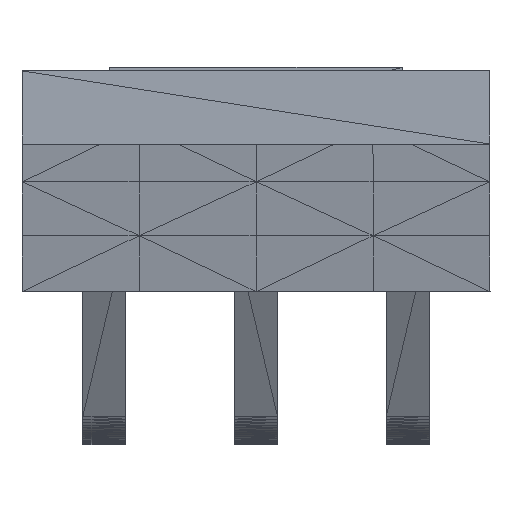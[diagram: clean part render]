
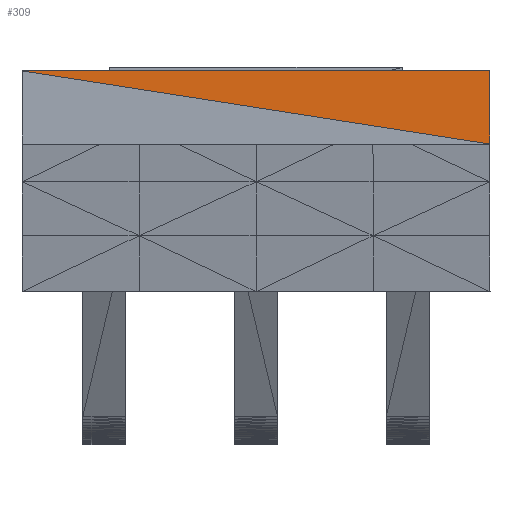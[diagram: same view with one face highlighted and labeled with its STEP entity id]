
A CAD part, top view. The second image highlights one B-rep face of the part: STEP entity #309.
In plain terms, the highlighted planar face has unit normal (0, 0, 1).
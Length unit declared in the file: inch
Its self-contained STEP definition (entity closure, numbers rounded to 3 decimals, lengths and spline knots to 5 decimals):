
#278=CARTESIAN_POINT('',(-0.2,0.30607,0.89002));
#279=DIRECTION('',(0.,0.,1.));
#280=DIRECTION('',(1.,0.,0.));
#281=AXIS2_PLACEMENT_3D('',#278,#279,#280);
#282=PLANE('',#281);
#283=CARTESIAN_POINT('',(0.2,0.24357,0.89001));
#284=VERTEX_POINT('',#283);
#285=CARTESIAN_POINT('',(-0.2,0.30607,0.89002));
#286=VERTEX_POINT('',#285);
#287=CARTESIAN_POINT('',(0.2,0.24357,0.89001));
#288=DIRECTION('',(-0.988,0.154,0.));
#289=VECTOR('',#288,0.40485);
#290=LINE('',#287,#289);
#291=EDGE_CURVE('',#284,#286,#290,.T.);
#292=ORIENTED_EDGE('',*,*,#291,.F.);
#293=CARTESIAN_POINT('',(0.2,0.30607,0.89002));
#294=VERTEX_POINT('',#293);
#295=CARTESIAN_POINT('',(0.2,0.24357,0.89001));
#296=DIRECTION('',(0.,1.,0.));
#297=VECTOR('',#296,0.0625);
#298=LINE('',#295,#297);
#299=EDGE_CURVE('',#284,#294,#298,.T.);
#300=ORIENTED_EDGE('',*,*,#299,.T.);
#301=CARTESIAN_POINT('',(-0.2,0.30607,0.89002));
#302=DIRECTION('',(1.,0.,-0.));
#303=VECTOR('',#302,0.4);
#304=LINE('',#301,#303);
#305=EDGE_CURVE('',#286,#294,#304,.T.);
#306=ORIENTED_EDGE('',*,*,#305,.F.);
#307=EDGE_LOOP('',(#292,#300,#306));
#308=FACE_BOUND('',#307,.T.);
#309=ADVANCED_FACE('',(#308),#282,.T.);
